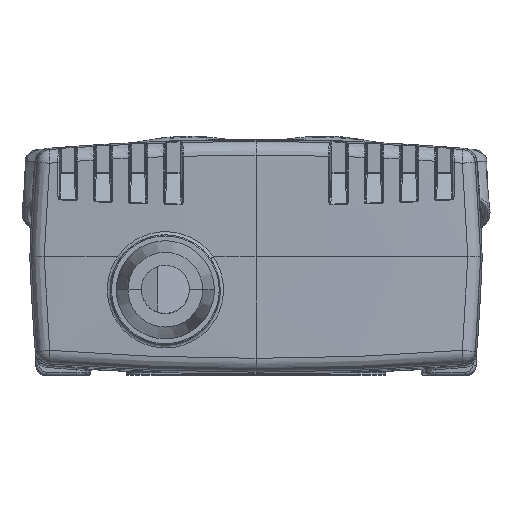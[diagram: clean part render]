
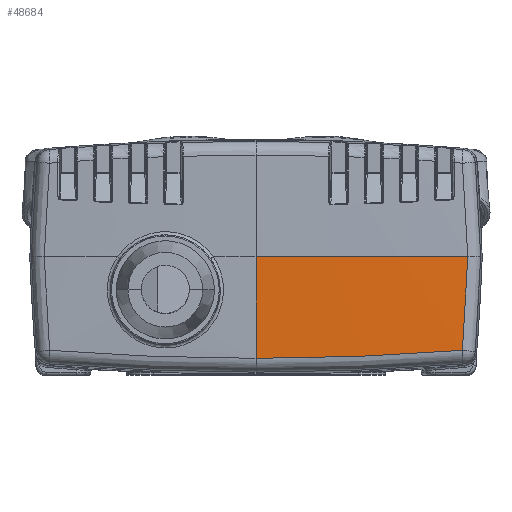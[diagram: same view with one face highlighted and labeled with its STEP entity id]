
A CAD part, top view. The second image highlights one B-rep face of the part: STEP entity #48684.
In plain terms, the highlighted free-form (B-spline) face has degree [3, 3] with [7, 5] control points.
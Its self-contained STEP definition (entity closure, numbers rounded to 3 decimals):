
#753 = CARTESIAN_POINT ( 'NONE',  ( 0., -5.513, 41.85 ) ) ;
#1576 = CARTESIAN_POINT ( 'NONE',  ( 13.867, -8.951, 41.616 ) ) ;
#1781 = CARTESIAN_POINT ( 'NONE',  ( 0.695, 0., 41.85 ) ) ;
#1974 = CARTESIAN_POINT ( 'NONE',  ( -2.535, -5.286, 41.85 ) ) ;
#2875 = EDGE_CURVE ( 'NONE', #7027, #19430, #36746, .T. ) ;
#5387 = CARTESIAN_POINT ( 'NONE',  ( 0., -8.184, 41.85 ) ) ;
#5896 = LINE ( 'NONE', #58657, #59309 ) ;
#6192 = CARTESIAN_POINT ( 'NONE',  ( 14.318, -1.616, 41.616 ) ) ;
#6394 = CARTESIAN_POINT ( 'NONE',  ( -0.812, -8.951, 41.85 ) ) ;
#6538 = CARTESIAN_POINT ( 'NONE',  ( 16.134, -9.023, 41.442 ) ) ;
#6581 = CARTESIAN_POINT ( 'NONE',  ( -2.305, 0., 41.85 ) ) ;
#7027 = VERTEX_POINT ( 'NONE', #51682 ) ;
#7717 = CARTESIAN_POINT ( 'NONE',  ( 0.695, 0., -258.15 ) ) ;
#9420 = CARTESIAN_POINT ( 'NONE',  ( 19.856, 0., 41.238 ) ) ;
#10677 = CARTESIAN_POINT ( 'NONE',  ( 20.505, -11., 41.149 ) ) ;
#10856 = CARTESIAN_POINT ( 'NONE',  ( 6.842, -11., 41.85 ) ) ;
#11054 = CARTESIAN_POINT ( 'NONE',  ( -0.361, -1.616, 41.85 ) ) ;
#11722 = DIRECTION ( 'NONE',  ( -1., 0., 0. ) ) ;
#11806 = CARTESIAN_POINT ( 'NONE',  ( 6.46, -9.459, 41.801 ) ) ;
#12360 = DIRECTION ( 'NONE',  ( 0., 0., 1. ) ) ;
#12597 = ORIENTED_EDGE ( 'NONE', *, *, #51106, .F. ) ;
#13188 = EDGE_CURVE ( 'NONE', #19430, #23257, #5896, .T. ) ;
#14253 = ORIENTED_EDGE ( 'NONE', *, *, #58991, .F. ) ;
#14522 = CARTESIAN_POINT ( 'NONE',  ( 0., 0., 41.85 ) ) ;
#15547 = CARTESIAN_POINT ( 'NONE',  ( 7.306, -5.286, 41.85 ) ) ;
#15756 = CARTESIAN_POINT ( 'NONE',  ( -2., -11., 41.85 ) ) ;
#16503 = CARTESIAN_POINT ( 'NONE',  ( 0., -9.52, 41.85 ) ) ;
#17009 = CARTESIAN_POINT ( 'NONE',  ( 0., -9.52, 41.85 ) ) ;
#17364 = CARTESIAN_POINT ( 'NONE',  ( 0.695, 0., 41.85 ) ) ;
#19143 = CARTESIAN_POINT ( 'NONE',  ( 0., -0.919, 41.85 ) ) ;
#19430 = VERTEX_POINT ( 'NONE', #17364 ) ;
#20125 = CARTESIAN_POINT ( 'NONE',  ( 7.537, 0., 41.85 ) ) ;
#20326 = CARTESIAN_POINT ( 'NONE',  ( -1.535, -5.286, 41.85 ) ) ;
#23257 = VERTEX_POINT ( 'NONE', #40303 ) ;
#23420 = EDGE_CURVE ( 'NONE', #23257, #41682, #56745, .T. ) ;
#23765 = CARTESIAN_POINT ( 'NONE',  ( 0., -2.756, 41.85 ) ) ;
#24575 = CARTESIAN_POINT ( 'NONE',  ( 21.144, -1.616, 41.149 ) ) ;
#24774 = CARTESIAN_POINT ( 'NONE',  ( 0.188, -8.951, 41.85 ) ) ;
#24970 = CARTESIAN_POINT ( 'NONE',  ( -1.305, 0., 41.85 ) ) ;
#27973 = CARTESIAN_POINT ( 'NONE',  ( 19.348, -8.774, 41.238 ) ) ;
#28400 = CARTESIAN_POINT ( 'NONE',  ( 0., -4.594, 41.85 ) ) ;
#28435 = ORIENTED_EDGE ( 'NONE', *, *, #23420, .T. ) ;
#28783 = EDGE_LOOP ( 'NONE', ( #28435, #14253, #12597, #45006, #38560 ) ) ;
#29224 = CARTESIAN_POINT ( 'NONE',  ( 13.679, -11., 41.616 ) ) ;
#29424 = CARTESIAN_POINT ( 'NONE',  ( 0.639, -1.616, 41.85 ) ) ;
#29604 = CARTESIAN_POINT ( 'NONE',  ( -2.812, -8.951, 41.85 ) ) ;
#30268 = VERTEX_POINT ( 'NONE', #57064 ) ;
#33014 = CARTESIAN_POINT ( 'NONE',  ( 0., -6.849, 41.85 ) ) ;
#33834 = CARTESIAN_POINT ( 'NONE',  ( 14.144, -5.286, 41.616 ) ) ;
#34031 = CARTESIAN_POINT ( 'NONE',  ( -1., -11., 41.85 ) ) ;
#34186 = CARTESIAN_POINT ( 'NONE',  ( 19.348, -8.774, 41.238 ) ) ;
#34238 = CARTESIAN_POINT ( 'NONE',  ( -2.361, -1.616, 41.85 ) ) ;
#36746 = CIRCLE ( 'NONE', #40988, 300. ) ;
#37024 = CARTESIAN_POINT ( 'NONE',  ( 19.753, -2.928, 41.238 ) ) ;
#37641 = CARTESIAN_POINT ( 'NONE',  ( 0., -9.52, 41.85 ) ) ;
#38456 = CARTESIAN_POINT ( 'NONE',  ( 14.374, 0., 41.616 ) ) ;
#38560 = ORIENTED_EDGE ( 'NONE', *, *, #13188, .T. ) ;
#38655 = CARTESIAN_POINT ( 'NONE',  ( -0.535, -5.286, 41.85 ) ) ;
#39423 = CARTESIAN_POINT ( 'NONE',  ( 12.913, -9.21, 41.596 ) ) ;
#39959 = DIRECTION ( 'NONE',  ( 0., -1., 0. ) ) ;
#40303 = CARTESIAN_POINT ( 'NONE',  ( 0., 0., 41.85 ) ) ;
#40988 = AXIS2_PLACEMENT_3D ( 'NONE', #7717, #39959, #12360 ) ;
#41385 =( BOUNDED_SURFACE ( )  B_SPLINE_SURFACE ( 3, 3, ( 
 ( #10677, #51994, #52185, #24575, #56827 ),
 ( #29224, #1576, #33834, #6192, #38456 ),
 ( #10856, #43074, #15547, #47705, #20125 ),
 ( #52385, #24774, #57029, #29424, #1781 ),
 ( #34031, #6394, #38655, #11054, #43253 ),
 ( #15756, #47903, #20326, #52591, #24970 ),
 ( #57224, #29604, #1974, #34238, #6581 ) ),
 .UNSPECIFIED., .F., .F., .F. ) 
 B_SPLINE_SURFACE_WITH_KNOTS ( ( 4, 3, 4 ),
 ( 4, 1, 4 ),
 ( 0., 0.43, 0.493 ),
 ( 0., 0.56, 1. ),
 .UNSPECIFIED. ) 
 GEOMETRIC_REPRESENTATION_ITEM ( )  RATIONAL_B_SPLINE_SURFACE ( (
 ( 1., 1., 1., 1., 1.),
 ( 1., 1., 1., 1., 1.),
 ( 1., 1., 1., 1., 1.),
 ( 1., 1., 1., 1., 1.),
 ( 1., 1., 1., 1., 1.),
 ( 1., 1., 1., 1., 1.),
 ( 1., 1., 1., 1., 1.) ) ) 
 REPRESENTATION_ITEM ( '' )  SURFACE ( )  );
#41682 = VERTEX_POINT ( 'NONE', #17009 ) ;
#43074 = CARTESIAN_POINT ( 'NONE',  ( 7.029, -8.951, 41.85 ) ) ;
#43253 = CARTESIAN_POINT ( 'NONE',  ( -0.305, 0., 41.85 ) ) ;
#44003 = CARTESIAN_POINT ( 'NONE',  ( 3.231, -9.52, 41.85 ) ) ;
#45006 = ORIENTED_EDGE ( 'NONE', *, *, #2875, .T. ) ;
#46464 = B_SPLINE_CURVE_WITH_KNOTS ( 'NONE', 3,
 ( #9420, #37024, #55569, #27973 ),
 .UNSPECIFIED., .F., .F.,
 ( 4, 4 ),
 ( 0., 0.009 ),
 .UNSPECIFIED. ) ;
#46829 = FACE_OUTER_BOUND ( 'NONE', #28783, .T. ) ;
#47705 = CARTESIAN_POINT ( 'NONE',  ( 7.48, -1.616, 41.85 ) ) ;
#47903 = CARTESIAN_POINT ( 'NONE',  ( -1.812, -8.951, 41.85 ) ) ;
#48684 = ADVANCED_FACE ( 'NONE', ( #46829 ), #41385, .F. ) ;
#48878 = B_SPLINE_CURVE_WITH_KNOTS ( 'NONE', 3,
 ( #34186, #6538, #39423, #11806, #44003, #16503 ),
 .UNSPECIFIED., .F., .F.,
 ( 4, 2, 4 ),
 ( 0., 0.01, 0.019 ),
 .UNSPECIFIED. ) ;
#51106 = EDGE_CURVE ( 'NONE', #7027, #30268, #46464, .T. ) ;
#51369 = CARTESIAN_POINT ( 'NONE',  ( 0., -1.838, 41.85 ) ) ;
#51682 = CARTESIAN_POINT ( 'NONE',  ( 19.856, 0., 41.238 ) ) ;
#51994 = CARTESIAN_POINT ( 'NONE',  ( 20.693, -8.951, 41.149 ) ) ;
#52185 = CARTESIAN_POINT ( 'NONE',  ( 20.97, -5.286, 41.149 ) ) ;
#52385 = CARTESIAN_POINT ( 'NONE',  ( 0., -11., 41.85 ) ) ;
#52591 = CARTESIAN_POINT ( 'NONE',  ( -1.361, -1.616, 41.85 ) ) ;
#55569 = CARTESIAN_POINT ( 'NONE',  ( 19.583, -5.853, 41.238 ) ) ;
#55994 = CARTESIAN_POINT ( 'NONE',  ( 0., -3.675, 41.85 ) ) ;
#56745 = B_SPLINE_CURVE_WITH_KNOTS ( 'NONE', 3,
 ( #14522, #19143, #51369, #23765, #55994, #28400, #753, #33014, #5387, #37641 ),
 .UNSPECIFIED., .F., .F.,
 ( 4, 3, 3, 4 ),
 ( 0., 0.003, 0.006, 0.01 ),
 .UNSPECIFIED. ) ;
#56827 = CARTESIAN_POINT ( 'NONE',  ( 21.2, 0., 41.149 ) ) ;
#57029 = CARTESIAN_POINT ( 'NONE',  ( 0.465, -5.286, 41.85 ) ) ;
#57064 = CARTESIAN_POINT ( 'NONE',  ( 19.348, -8.774, 41.238 ) ) ;
#57224 = CARTESIAN_POINT ( 'NONE',  ( -3., -11., 41.85 ) ) ;
#58657 = CARTESIAN_POINT ( 'NONE',  ( -2.305, 0., 41.85 ) ) ;
#58991 = EDGE_CURVE ( 'NONE', #30268, #41682, #48878, .T. ) ;
#59309 = VECTOR ( 'NONE', #11722, 1000. ) ;
